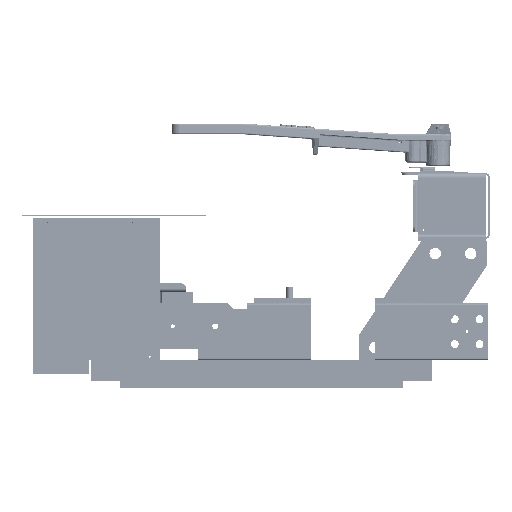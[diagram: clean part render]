
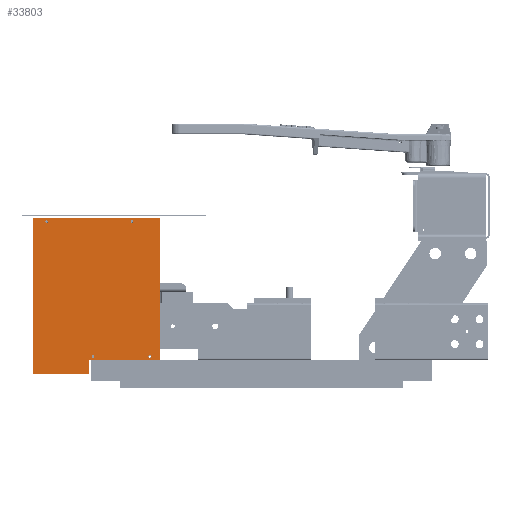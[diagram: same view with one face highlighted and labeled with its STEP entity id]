
A CAD part, left-side view. The second image highlights one B-rep face of the part: STEP entity #33803.
In plain terms, the highlighted planar face has unit normal (-1, 0, 0) as drawn and (0, 0, -1) by its records, which use the part's own axes.
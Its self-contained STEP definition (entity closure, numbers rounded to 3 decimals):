
#1831=FACE_BOUND('',#6284,.T.);
#1832=FACE_BOUND('',#6285,.T.);
#1833=FACE_BOUND('',#6286,.T.);
#1834=FACE_BOUND('',#6287,.T.);
#2501=PLANE('',#37368);
#3864=FACE_OUTER_BOUND('',#6283,.T.);
#6283=EDGE_LOOP('',(#27486,#27487,#27488,#27489,#27490,#27491));
#6284=EDGE_LOOP('',(#27492));
#6285=EDGE_LOOP('',(#27493));
#6286=EDGE_LOOP('',(#27494));
#6287=EDGE_LOOP('',(#27495));
#8797=LINE('',#53948,#11521);
#8801=LINE('',#53956,#11525);
#8804=LINE('',#53962,#11528);
#8807=LINE('',#53968,#11531);
#8810=LINE('',#53974,#11534);
#8813=LINE('',#53979,#11537);
#11521=VECTOR('',#44422,0.394);
#11525=VECTOR('',#44428,0.394);
#11528=VECTOR('',#44433,0.394);
#11531=VECTOR('',#44438,0.394);
#11534=VECTOR('',#44443,0.394);
#11537=VECTOR('',#44448,0.394);
#13827=CIRCLE('',#37352,0.097);
#13829=CIRCLE('',#37355,0.097);
#13831=CIRCLE('',#37358,0.097);
#13833=CIRCLE('',#37361,0.097);
#16047=VERTEX_POINT('',#53924);
#16049=VERTEX_POINT('',#53930);
#16051=VERTEX_POINT('',#53936);
#16053=VERTEX_POINT('',#53942);
#16054=VERTEX_POINT('',#53946);
#16055=VERTEX_POINT('',#53947);
#16058=VERTEX_POINT('',#53955);
#16060=VERTEX_POINT('',#53961);
#16062=VERTEX_POINT('',#53967);
#16064=VERTEX_POINT('',#53973);
#20078=EDGE_CURVE('',#16047,#16047,#13827,.T.);
#20081=EDGE_CURVE('',#16049,#16049,#13829,.T.);
#20084=EDGE_CURVE('',#16051,#16051,#13831,.T.);
#20087=EDGE_CURVE('',#16053,#16053,#13833,.T.);
#20088=EDGE_CURVE('',#16054,#16055,#8797,.T.);
#20092=EDGE_CURVE('',#16055,#16058,#8801,.T.);
#20095=EDGE_CURVE('',#16058,#16060,#8804,.T.);
#20098=EDGE_CURVE('',#16060,#16062,#8807,.T.);
#20101=EDGE_CURVE('',#16062,#16064,#8810,.T.);
#20104=EDGE_CURVE('',#16064,#16054,#8813,.T.);
#27486=ORIENTED_EDGE('',*,*,#20088,.F.);
#27487=ORIENTED_EDGE('',*,*,#20104,.F.);
#27488=ORIENTED_EDGE('',*,*,#20101,.F.);
#27489=ORIENTED_EDGE('',*,*,#20098,.F.);
#27490=ORIENTED_EDGE('',*,*,#20095,.F.);
#27491=ORIENTED_EDGE('',*,*,#20092,.F.);
#27492=ORIENTED_EDGE('',*,*,#20078,.T.);
#27493=ORIENTED_EDGE('',*,*,#20081,.T.);
#27494=ORIENTED_EDGE('',*,*,#20084,.T.);
#27495=ORIENTED_EDGE('',*,*,#20087,.T.);
#33803=ADVANCED_FACE('',(#3864,#1831,#1832,#1833,#1834),#2501,.F.);
#37352=AXIS2_PLACEMENT_3D('',#53926,#44397,#44398);
#37355=AXIS2_PLACEMENT_3D('',#53932,#44404,#44405);
#37358=AXIS2_PLACEMENT_3D('',#53938,#44411,#44412);
#37361=AXIS2_PLACEMENT_3D('',#53944,#44418,#44419);
#37368=AXIS2_PLACEMENT_3D('',#53981,#44450,#44451);
#44397=DIRECTION('center_axis',(0.,0.,1.));
#44398=DIRECTION('ref_axis',(-1.,0.,0.));
#44404=DIRECTION('center_axis',(0.,0.,1.));
#44405=DIRECTION('ref_axis',(-1.,0.,0.));
#44411=DIRECTION('center_axis',(0.,0.,1.));
#44412=DIRECTION('ref_axis',(-1.,0.,0.));
#44418=DIRECTION('center_axis',(0.,0.,1.));
#44419=DIRECTION('ref_axis',(-1.,0.,0.));
#44422=DIRECTION('',(0.,-1.,0.));
#44428=DIRECTION('',(1.,0.,0.));
#44433=DIRECTION('',(0.,1.,0.));
#44438=DIRECTION('',(1.,0.,0.));
#44443=DIRECTION('',(0.,1.,0.));
#44448=DIRECTION('',(-1.,0.,0.));
#44450=DIRECTION('center_axis',(0.,0.,1.));
#44451=DIRECTION('ref_axis',(1.,0.,0.));
#53924=CARTESIAN_POINT('',(9.847,4.75,-0.125));
#53926=CARTESIAN_POINT('Origin',(9.75,4.75,-0.125));
#53930=CARTESIAN_POINT('',(9.847,0.75,-0.125));
#53932=CARTESIAN_POINT('Origin',(9.75,0.75,-0.125));
#53936=CARTESIAN_POINT('',(0.347,8.,-0.125));
#53938=CARTESIAN_POINT('Origin',(0.25,8.,-0.125));
#53942=CARTESIAN_POINT('',(0.347,2.,-0.125));
#53944=CARTESIAN_POINT('Origin',(0.25,2.,-0.125));
#53946=CARTESIAN_POINT('',(0.,9.,-0.125));
#53947=CARTESIAN_POINT('',(0.,0.,-0.125));
#53948=CARTESIAN_POINT('',(0.,9.,-0.125));
#53955=CARTESIAN_POINT('',(10.,0.,-0.125));
#53956=CARTESIAN_POINT('',(0.,0.,-0.125));
#53961=CARTESIAN_POINT('',(10.,5.063,-0.125));
#53962=CARTESIAN_POINT('',(10.,0.,-0.125));
#53967=CARTESIAN_POINT('',(11.,5.063,-0.125));
#53968=CARTESIAN_POINT('',(10.,5.063,-0.125));
#53973=CARTESIAN_POINT('',(11.,9.,-0.125));
#53974=CARTESIAN_POINT('',(11.,5.063,-0.125));
#53979=CARTESIAN_POINT('',(11.,9.,-0.125));
#53981=CARTESIAN_POINT('Origin',(5.373,4.627,-0.125));
